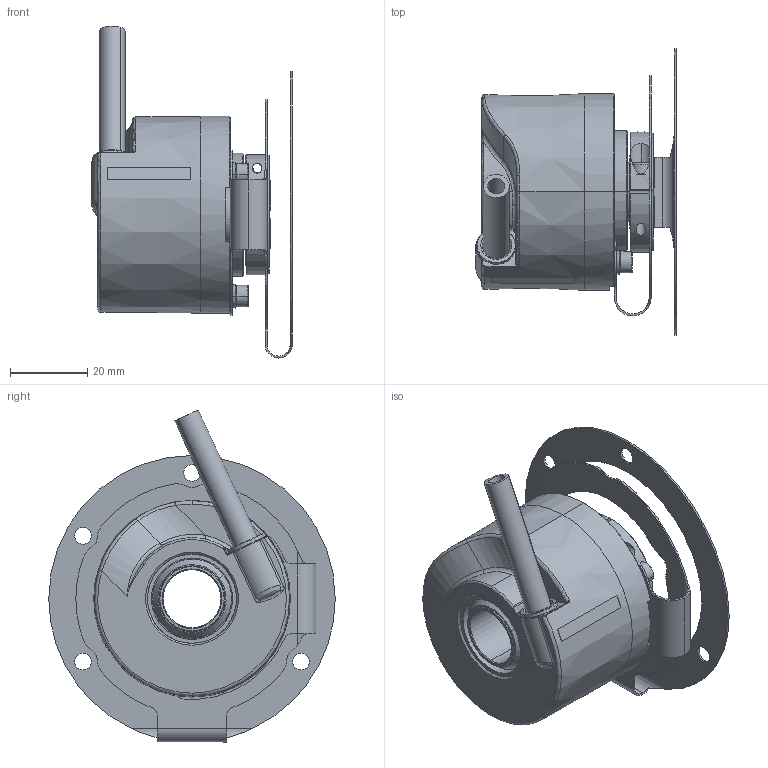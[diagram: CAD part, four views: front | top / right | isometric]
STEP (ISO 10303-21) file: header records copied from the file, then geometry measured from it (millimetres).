
FILE_DESCRIPTION (( 'STEP AP214' ), '1' );
FILE_NAME ('8.5020.88XE.XXXX.STEP', '2011-01-10T08:00:59', ( 'admin' ), ( 'Fritz Kübler GmbH' ), 'SwSTEP 2.0', 'SolidWorks 2009', '' );
FILE_SCHEMA (( 'AUTOMOTIVE_DESIGN' ));
Length unit declared in the file: millimetre
Products named in the file (1): 8.5020.88XE.XXXX
Bounding box: 51.8 x 74 x 85.74 mm (x, y, z)
Surface area: 26340.1 mm2 (no closed solid volume)
Topology: 0 solids, 14 shells, 270 faces, 819 edges, 542 vertices
Faces by surface type: cylinder 127, plane 64, cone 45, torus 17, bspline 17
Entity records: 14868 total; most frequent: CARTESIAN_POINT 4607, DIRECTION 1580, ORIENTED_EDGE 1409, EDGE_CURVE 809, AXIS2_PLACEMENT_3D 637, VERTEX_POINT 542, CIRCLE 383, EDGE_LOOP 311
